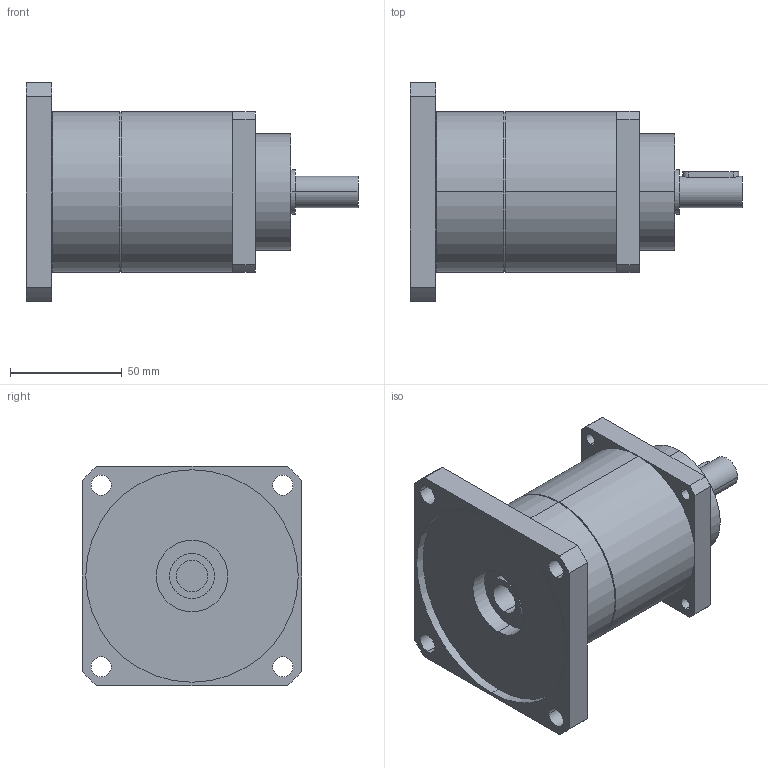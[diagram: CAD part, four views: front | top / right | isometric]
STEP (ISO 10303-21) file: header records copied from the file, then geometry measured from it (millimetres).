
FILE_DESCRIPTION(('CoCreate Modeling STEP Export'),'2;1');
FILE_NAME('GPT75_ig-9-12-16-20-25-28-35-40-50-70-100_14_B5T_14_P08.stp','2014-08-27T13:37:46',(''),(''),'CoCreate Modeling STEP processor for AP214 (Solid Model)','CoCreate Modeling 16.00C 25-Feb-2009 (C) Parametric Technology GmbH','');
FILE_SCHEMA(('AUTOMOTIVE_DESIGN { 1 0 10303 214 1 1 1 1 }'));
Length unit declared in the file: millimetre
Products named in the file (2): GPT75_ig-9-12-16-20-25-28-35-40-50-70-100_14_B5T_14_P08
Assembly tree (1 placements, depth 2):
  GPT75_ig-9-12-16-20-25-28-35-40-50-70-100_14_B5T_14_P08
    GPT75_ig-9-12-16-20-25-28-35-40-50-70-100_14_B5T_14_P08
Bounding box: 148.5 x 98 x 98 mm (x, y, z)
Volume: 487767.2 mm3; surface area: 56167.5 mm2
Topology: 1 solids, 1 shells, 77 faces, 189 edges, 124 vertices
Faces by surface type: cylinder 46, plane 27, cone 4
Entity records: 2459 total; most frequent: CARTESIAN_POINT 714, ORIENTED_EDGE 378, DIRECTION 320, EDGE_CURVE 189, VERTEX_POINT 124, AXIS2_PLACEMENT_3D 118, EDGE_LOOP 103, VECTOR 84
